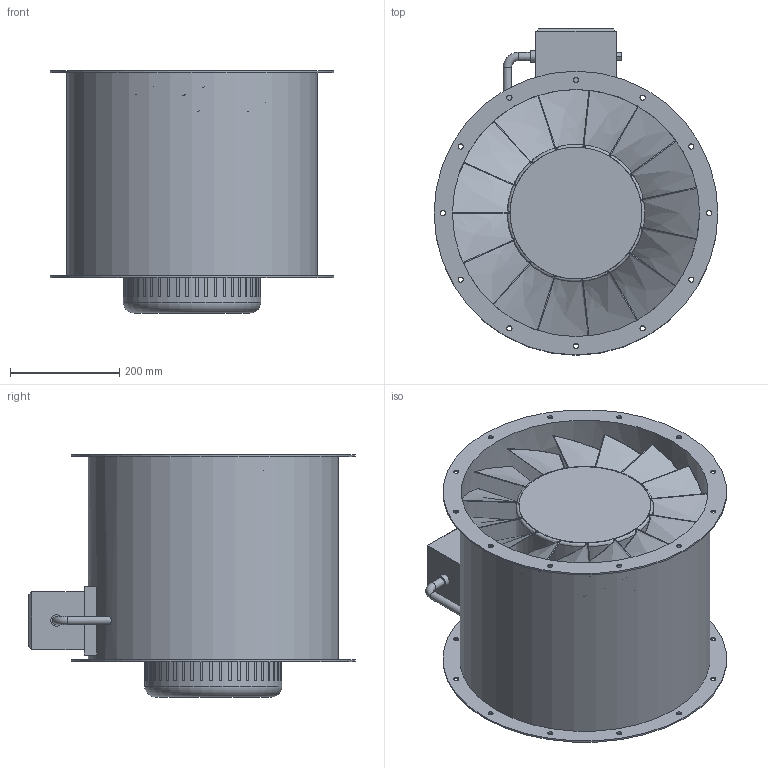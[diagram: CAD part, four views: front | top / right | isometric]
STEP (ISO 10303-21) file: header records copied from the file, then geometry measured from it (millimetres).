
FILE_DESCRIPTION(/* description */ (''),/* implementation_level */ '2;1');
FILE_NAME(/* name */ 'Z:\Output\AMD_450-4-2_0.8-3.1-03111-030.stp',/* time_stamp */ '2021-12-10T17:05:32+01:00',/* author */ ('engineering1'),/* organization */ (''),/* preprocessor_version */ 'ST-DEVELOPER v17.2',/* originating_system */ 'Autodesk Inventor 2019',/* authorisation */ '');
FILE_SCHEMA (('AUTOMOTIVE_DESIGN { 1 0 10303 214 3 1 1 }'));
Length unit declared in the file: millimetre
Products named in the file (1): AMD W
Bounding box: 519 x 597 x 443 mm (x, y, z)
Volume: 23448885.4 mm3; surface area: 2529895.4 mm2
Topology: 1 solids, 43 shells, 443 faces, 1046 edges, 661 vertices
Faces by surface type: plane 239, cylinder 142, bspline 45, torus 17
Full cylindrical faces by diameter (mm): 9.5 x24, 15 x3, 21 x1, 251.111 x1, 452 x1, 458 x1, 519 x2
Entity records: 14017 total; most frequent: CARTESIAN_POINT 3965, ORIENTED_EDGE 2092, DIRECTION 1929, EDGE_CURVE 1046, AXIS2_PLACEMENT_3D 698, VERTEX_POINT 661, LINE 533, VECTOR 533
